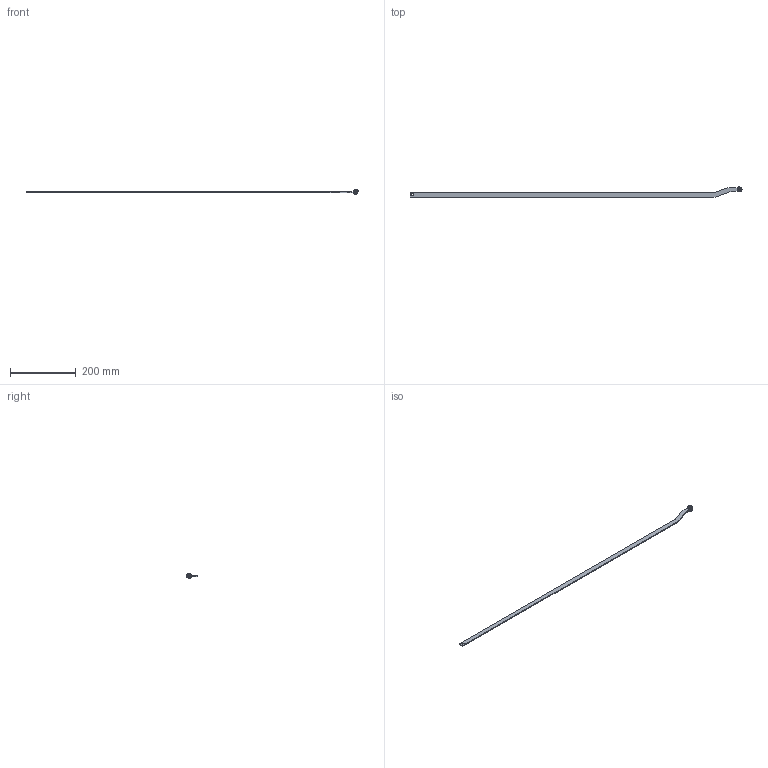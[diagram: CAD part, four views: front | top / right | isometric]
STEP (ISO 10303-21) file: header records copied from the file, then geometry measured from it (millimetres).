
FILE_DESCRIPTION (( 'STEP AP214' ), '1' );
FILE_NAME ('A20K-L.STEP', '2016-08-18T08:32:28', ( 'RST-Dolba' ), ( '' ), 'SwSTEP 2.0', 'SolidWorks 2015', '' );
FILE_SCHEMA (( 'AUTOMOTIVE_DESIGN' ));
Length unit declared in the file: millimetre
Products named in the file (5): A20K-L; DIN 125_M4; 1C.ROLKA.02.04.00_A-zak; 1C.905.001_A; 1C.A.X.Y.L.01_20K
Assembly tree (5 placements, depth 2):
  A20K-L
    1C.A.X.Y.L.01_20K
    1C.905.001_A  x2
    1C.ROLKA.02.04.00_A-zak
    DIN 125_M4
Bounding box: 1007.5 x 31 x 14 mm (x, y, z)
Volume: 43528.4 mm3; surface area: 35770.7 mm2
Topology: 5 solids, 5 shells, 58 faces, 135 edges, 87 vertices
Faces by surface type: cylinder 26, plane 26, torus 4, cone 2
Entity records: 1667 total; most frequent: DIRECTION 281, CARTESIAN_POINT 252, ORIENTED_EDGE 234, EDGE_CURVE 117, AXIS2_PLACEMENT_3D 106, VERTEX_POINT 77, LINE 69, VECTOR 69
